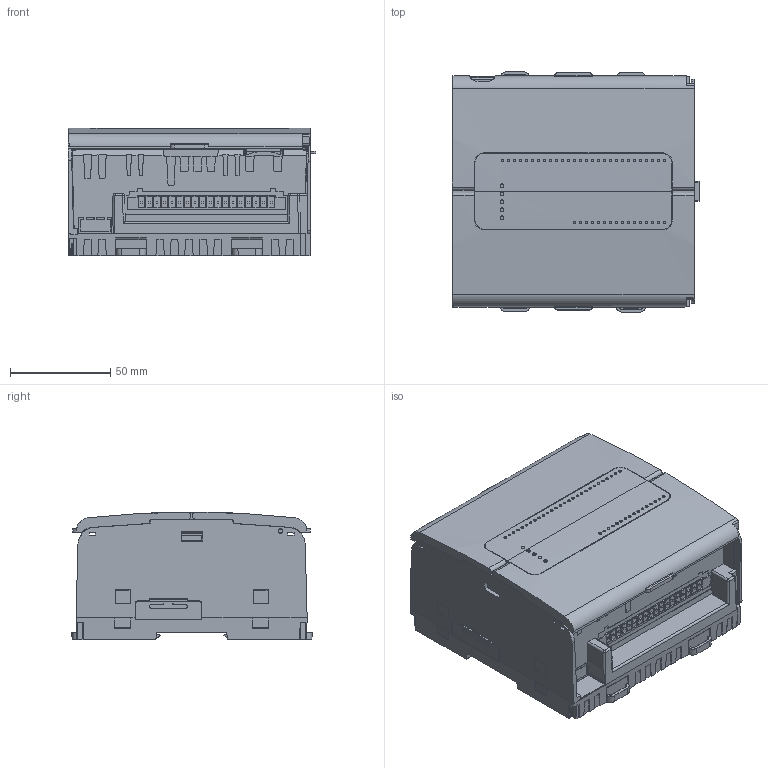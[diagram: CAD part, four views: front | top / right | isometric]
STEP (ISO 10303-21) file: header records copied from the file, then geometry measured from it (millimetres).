
FILE_DESCRIPTION (( 'STEP AP203' ), '1' );
FILE_NAME ('PLC Without HMI.STEP', '2019-01-22T14:44:27', ( '' ), ( '' ), 'SwSTEP 2.0', 'SolidWorks 2017', '' );
FILE_SCHEMA (( 'CONFIG_CONTROL_DESIGN' ));
Products named in the file (1): PLC Without HMI
Bounding box: 123.65 x 120 x 63.87 mm (x, y, z)
Volume: 700425.2 mm3; surface area: 98322.2 mm2
Topology: 6 solids, 28 shells, 3047 faces, 7919 edges, 5099 vertices
Faces by surface type: plane 1874, cylinder 564, bspline 427, cone 138, sphere 32, torus 12
Entity records: 111144 total; most frequent: CARTESIAN_POINT 42204, ORIENTED_EDGE 15834, DIRECTION 11735, EDGE_CURVE 7917, LINE 5403, VECTOR 5403, VERTEX_POINT 5099, EDGE_LOOP 3260
